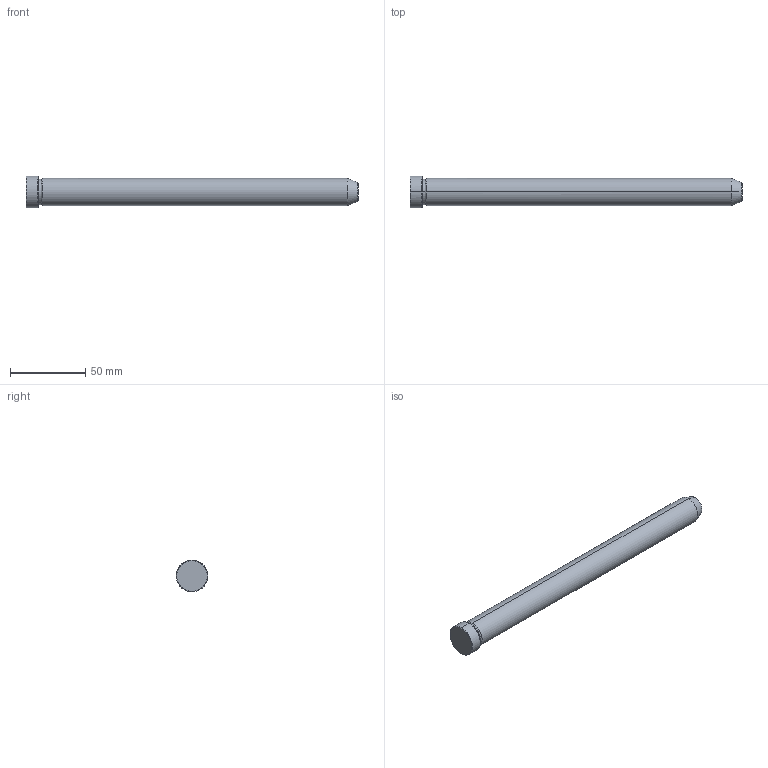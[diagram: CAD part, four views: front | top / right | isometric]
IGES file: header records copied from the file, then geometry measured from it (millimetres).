
Start section: START RECORD GO HERE.
Global section: file name: 549-18X220.igs; native system: DASSAULT SYSTEMES CATIA V5 R20 - www.3ds.com; preprocessor: CATIA Version 5 Release 20 ; author: Utente; organization: NB04-ASUS; date: 20211211.103808; units: millimetre
Bounding box: 220 x 21 x 21 mm (x, y, z)
Surface area: 13035.3 mm2 (no closed solid volume)
Topology: 0 solids, 0 shells, 19 faces, 112 edges, 112 vertices
Faces by surface type: revolution 16, plane 3
